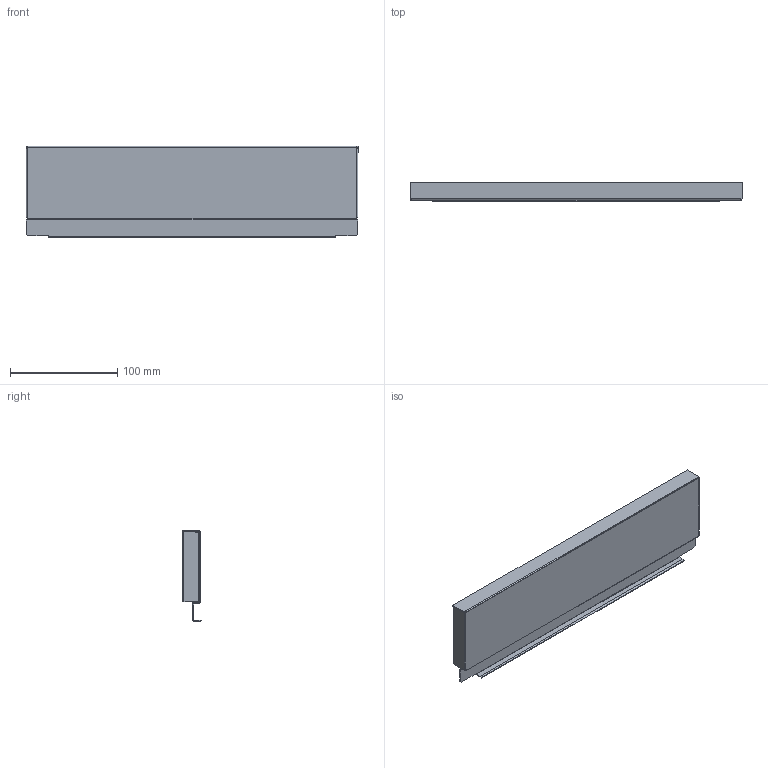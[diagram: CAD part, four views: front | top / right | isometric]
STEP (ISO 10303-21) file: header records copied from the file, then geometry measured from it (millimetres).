
FILE_DESCRIPTION (( 'STEP AP214' ), '1' );
FILE_NAME ('_STRW_H90_KAB_400.step', '2010-08-24T14:40:13', ( 'grass' ), ( '' ), 'SwSTEP 2.0', 'SolidWorks 2009', '' );
FILE_SCHEMA (( 'AUTOMOTIVE_DESIGN' ));
Length unit declared in the file: millimetre
Products named in the file (1): _STRW_H90_KAB_400
Bounding box: 310 x 17 x 85.14 mm (x, y, z)
Volume: 29581.5 mm3; surface area: 74707.6 mm2
Topology: 1 solids, 1 shells, 76 faces, 214 edges, 140 vertices
Faces by surface type: plane 54, cylinder 22
Entity records: 2472 total; most frequent: CARTESIAN_POINT 431, ORIENTED_EDGE 428, DIRECTION 412, EDGE_CURVE 214, LINE 170, VECTOR 170, VERTEX_POINT 140, AXIS2_PLACEMENT_3D 121
